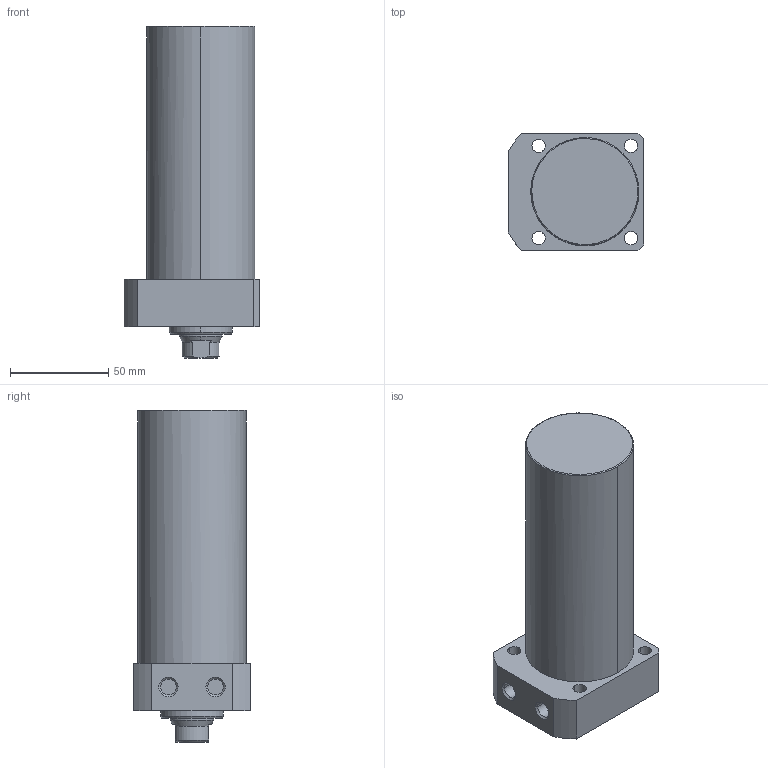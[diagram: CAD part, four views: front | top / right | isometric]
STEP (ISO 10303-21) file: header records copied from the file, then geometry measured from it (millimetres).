
FILE_DESCRIPTION((' '),'2;1');
FILE_NAME( 'TLLR-055CA-100.STEP.stp', '2025-10-24T16:34:42', (' '), ('--- Datakit www.datakit.com---'), ' Datakit CrossCadWare V2024.1 Dec 21 2023', 'Mastercam 2025', ' ');
FILE_SCHEMA(('AUTOMOTIVE_DESIGN { 1 0 10303 214 1 1 1 1 }'));
Length unit declared in the file: millimetre
Products named in the file (1): TLLR-055CA-100
Bounding box: 69 x 60 x 169 mm (x, y, z)
Volume: 404109.5 mm3; surface area: 40576.6 mm2
Topology: 1 solids, 1 shells, 63 faces, 177 edges, 122 vertices
Faces by surface type: cylinder 28, plane 19, cone 14, torus 2
Entity records: 2164 total; most frequent: CARTESIAN_POINT 401, DIRECTION 400, ORIENTED_EDGE 350, EDGE_CURVE 175, AXIS2_PLACEMENT_3D 169, VERTEX_POINT 122, CIRCLE 105, EDGE_LOOP 79
